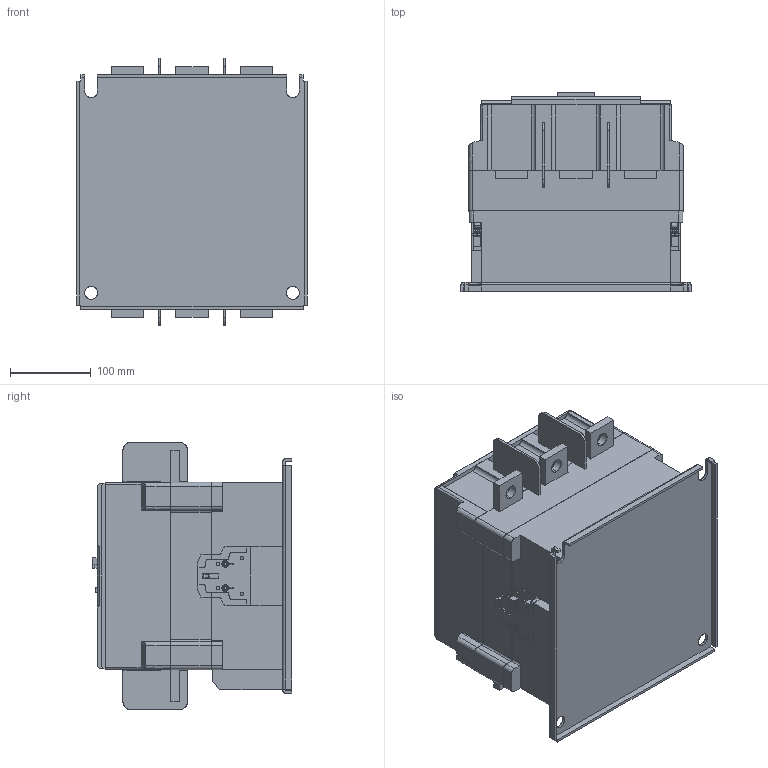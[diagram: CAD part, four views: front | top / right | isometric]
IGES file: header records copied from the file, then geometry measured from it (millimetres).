
Start section: SolidWorks IGES file using analytic representation for surfaces
Global section: file name: Q:\GROUPS\BR_SC_JGS_WA_TECNICO\ENG\Usuarios\Rodrigob\conversão\contatores\Produto\CWM500-CWM630-CWM800\CWM500-CWM630-CWM800.IGS; native system: SolidWorks 2012; preprocessor: SolidWorks 2012; author: rodrigob; date: 140529.071630; units: millimetre
Bounding box: 285 x 246.52 x 331.02 mm (x, y, z)
Surface area: 1411781.9 mm2 (no closed solid volume)
Topology: 0 solids, 0 shells, 2103 faces, 19448 edges, 19392 vertices
Faces by surface type: bspline 1671, revolution 432
